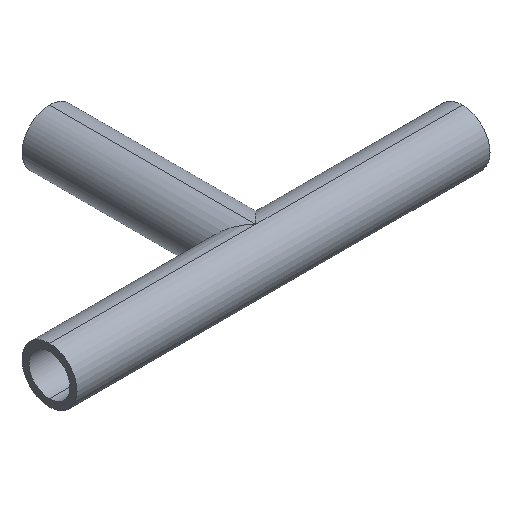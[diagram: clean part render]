
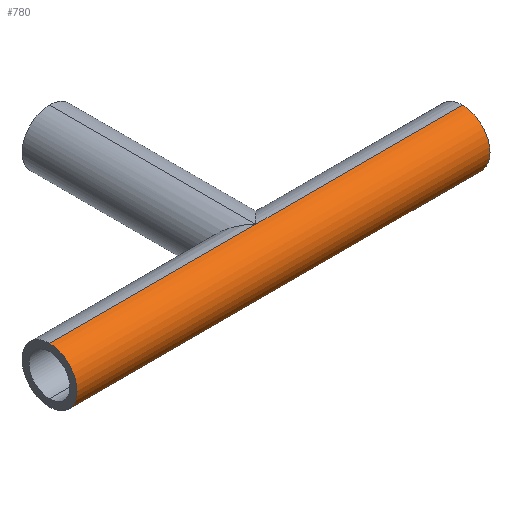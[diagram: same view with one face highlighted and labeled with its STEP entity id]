
A CAD part, isometric view. The second image highlights one B-rep face of the part: STEP entity #780.
In plain terms, the highlighted cylindrical face has radius 6.35 mm (diameter 12.7 mm), a partial arc.
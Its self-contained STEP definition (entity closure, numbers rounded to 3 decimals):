
#15 = ORIENTED_EDGE ( 'NONE', *, *, #893, .F. ) ;
#104 = EDGE_LOOP ( 'NONE', ( #15, #1061, #721, #634, #576, #619 ) ) ;
#116 = CYLINDRICAL_SURFACE ( 'NONE', #1126, 6.35 ) ;
#154 = LINE ( 'NONE', #799, #792 ) ;
#198 = DIRECTION ( 'NONE',  ( 0., 0., -1. ) ) ;
#277 = DIRECTION ( 'NONE',  ( 1., 0., 0. ) ) ;
#298 = DIRECTION ( 'NONE',  ( 1., 0., 0. ) ) ;
#317 = CARTESIAN_POINT ( 'NONE',  ( -47.6, 0., 6.35 ) ) ;
#320 = DIRECTION ( 'NONE',  ( 1., 0., 0. ) ) ;
#382 = CARTESIAN_POINT ( 'NONE',  ( 0., 0., 6.35 ) ) ;
#397 = VECTOR ( 'NONE', #398, 1000. ) ;
#398 = DIRECTION ( 'NONE',  ( 1., 0., 0. ) ) ;
#423 = VERTEX_POINT ( 'NONE', #428 ) ;
#428 = CARTESIAN_POINT ( 'NONE',  ( 47.6, 0., -6.35 ) ) ;
#439 = CARTESIAN_POINT ( 'NONE',  ( 47.6, 0., 6.35 ) ) ;
#455 = CARTESIAN_POINT ( 'NONE',  ( -47.6, 0., 6.35 ) ) ;
#487 = AXIS2_PLACEMENT_3D ( 'NONE', #535, #817, #808 ) ;
#527 = CARTESIAN_POINT ( 'NONE',  ( -47.6, 0., -6.35 ) ) ;
#535 = CARTESIAN_POINT ( 'NONE',  ( 47.6, 0., 0. ) ) ;
#540 = CARTESIAN_POINT ( 'NONE',  ( 0., 0., -6.35 ) ) ;
#576 = ORIENTED_EDGE ( 'NONE', *, *, #1100, .T. ) ;
#606 = VERTEX_POINT ( 'NONE', #439 ) ;
#619 = ORIENTED_EDGE ( 'NONE', *, *, #997, .F. ) ;
#634 = ORIENTED_EDGE ( 'NONE', *, *, #942, .T. ) ;
#657 = DIRECTION ( 'NONE',  ( 0., 0., -1. ) ) ;
#661 = CARTESIAN_POINT ( 'NONE',  ( -47.6, 0., -6.35 ) ) ;
#664 = CARTESIAN_POINT ( 'NONE',  ( -47.6, 0., 0. ) ) ;
#668 = LINE ( 'NONE', #455, #397 ) ;
#721 = ORIENTED_EDGE ( 'NONE', *, *, #831, .T. ) ;
#723 = VERTEX_POINT ( 'NONE', #540 ) ;
#739 = VERTEX_POINT ( 'NONE', #527 ) ;
#771 = LINE ( 'NONE', #661, #931 ) ;
#775 = DIRECTION ( 'NONE',  ( 1., 0., 0. ) ) ;
#777 = VERTEX_POINT ( 'NONE', #791 ) ;
#780 = ADVANCED_FACE ( 'NONE', ( #823 ), #116, .T. ) ;
#788 = DIRECTION ( 'NONE',  ( 1., 0., 0. ) ) ;
#791 = CARTESIAN_POINT ( 'NONE',  ( -47.6, 0., 6.35 ) ) ;
#792 = VECTOR ( 'NONE', #788, 1000. ) ;
#798 = CARTESIAN_POINT ( 'NONE',  ( -47.6, 0., 0. ) ) ;
#799 = CARTESIAN_POINT ( 'NONE',  ( -47.6, 0., -6.35 ) ) ;
#808 = DIRECTION ( 'NONE',  ( 0., 0., -1. ) ) ;
#817 = DIRECTION ( 'NONE',  ( -1., 0., 0. ) ) ;
#823 = FACE_OUTER_BOUND ( 'NONE', #104, .T. ) ;
#831 = EDGE_CURVE ( 'NONE', #739, #723, #154, .T. ) ;
#893 = EDGE_CURVE ( 'NONE', #777, #933, #668, .T. ) ;
#900 = CIRCLE ( 'NONE', #487, 6.35 ) ;
#919 = VECTOR ( 'NONE', #298, 1000. ) ;
#931 = VECTOR ( 'NONE', #320, 1000. ) ;
#933 = VERTEX_POINT ( 'NONE', #382 ) ;
#942 = EDGE_CURVE ( 'NONE', #723, #423, #771, .T. ) ;
#984 = EDGE_CURVE ( 'NONE', #777, #739, #1083, .T. ) ;
#997 = EDGE_CURVE ( 'NONE', #933, #606, #1133, .T. ) ;
#1061 = ORIENTED_EDGE ( 'NONE', *, *, #984, .T. ) ;
#1078 = AXIS2_PLACEMENT_3D ( 'NONE', #664, #277, #198 ) ;
#1083 = CIRCLE ( 'NONE', #1078, 6.35 ) ;
#1100 = EDGE_CURVE ( 'NONE', #423, #606, #900, .T. ) ;
#1126 = AXIS2_PLACEMENT_3D ( 'NONE', #798, #775, #657 ) ;
#1133 = LINE ( 'NONE', #317, #919 ) ;
